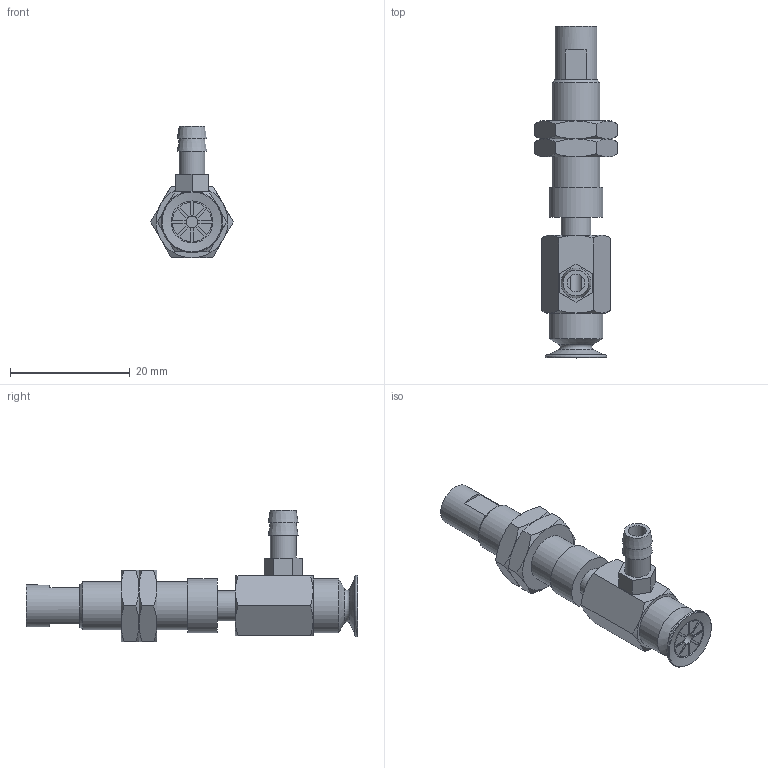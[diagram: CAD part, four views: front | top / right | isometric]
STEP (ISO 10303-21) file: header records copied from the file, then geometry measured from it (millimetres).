
FILE_DESCRIPTION(('STEP AP203'),'1');
FILE_NAME('-T.stp','2025-02-11T07:11:14',(' '),(' '),'Spatial InterOp 3D',' ',' ');
FILE_SCHEMA(('CONFIG_CONTROL_DESIGN'));
Length unit declared in the file: millimetre
Products named in the file (7): BNABPAYS-10B-3-※-T; NAPAYS-10A-3--M; NAPAYS-10A-3--F; Nut-10A-S; CONNECTOR-10A-3-PA; T; BPAG-10B-※_3D
Assembly tree (7 placements, depth 2):
  BNABPAYS-10B-3-※-T
    NAPAYS-10A-3--M
    NAPAYS-10A-3--F
    Nut-10A-S  x2
    CONNECTOR-10A-3-PA
    T
    BPAG-10B-※_3D
Bounding box: 13.86 x 55.5 x 22 mm (x, y, z)
Volume: 3583 mm3; surface area: 4491 mm2
Topology: 7 solids, 7 shells, 181 faces, 405 edges, 251 vertices
Faces by surface type: plane 87, cone 54, cylinder 29, torus 11
Full cylindrical faces by diameter (mm): 2 x2, 3 x1, 4 x2, 4.134 x2, 4.3 x1, 5 x4, 6 x2, 7 x2, 7.188 x2, 8 x1, 9 x2
Entity records: 4708 total; most frequent: CARTESIAN_POINT 1032, DIRECTION 708, ORIENTED_EDGE 606, EDGE_CURVE 303, AXIS2_PLACEMENT_3D 293, EDGE_LOOP 228, VERTEX_POINT 215, FACE_OUTER_BOUND 189
